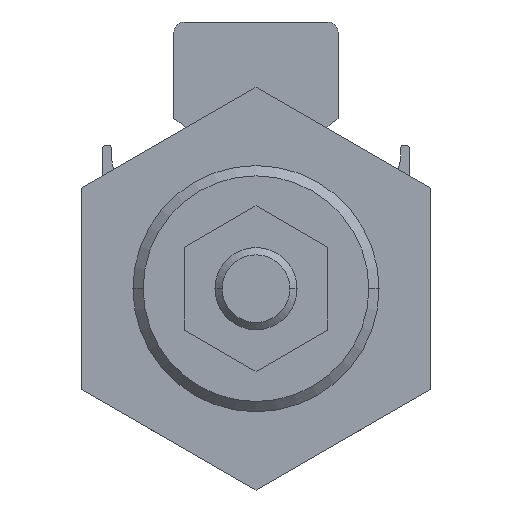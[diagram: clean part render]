
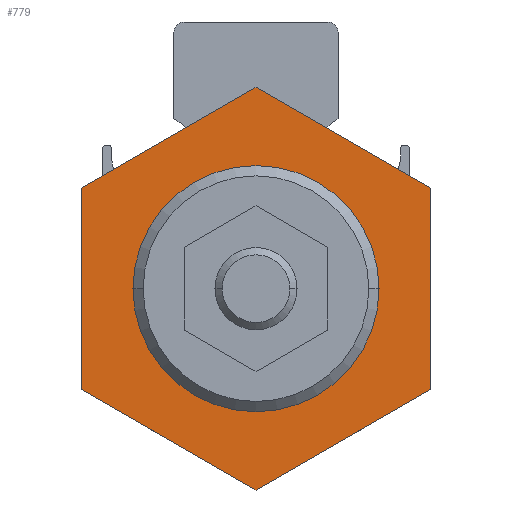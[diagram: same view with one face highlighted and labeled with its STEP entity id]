
A CAD part, front view. The second image highlights one B-rep face of the part: STEP entity #779.
In plain terms, the highlighted planar face has unit normal (0, -1, 0).
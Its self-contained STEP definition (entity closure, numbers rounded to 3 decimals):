
#213=CARTESIAN_POINT('',(-6.,-61.5,7.));
#214=VERTEX_POINT('',#213);
#223=CARTESIAN_POINT('',(6.,-61.5,7.));
#224=VERTEX_POINT('',#223);
#225=CARTESIAN_POINT('',(0.0,-61.5,7.));
#226=DIRECTION('',(0.0,-1.0,0.0));
#227=DIRECTION('',(-1.0,0.0,0.0));
#228=AXIS2_PLACEMENT_3D('',#225,#226,#227);
#229=CIRCLE('',#228,6.);
#230=EDGE_CURVE('',#214,#224,#229,.T.);
#714=CARTESIAN_POINT('',(0.,-61.5,7.));
#715=DIRECTION('',(0.0,1.0,0.0));
#716=DIRECTION('',(0.0,0.0,1.0));
#717=AXIS2_PLACEMENT_3D('',#714,#715,#716);
#718=PLANE('',#717);
#719=CARTESIAN_POINT('',(0.,-61.5,16.815));
#720=VERTEX_POINT('',#719);
#721=CARTESIAN_POINT('',(8.5,-61.5,11.907));
#722=VERTEX_POINT('',#721);
#723=CARTESIAN_POINT('',(0.,-61.5,16.815));
#724=DIRECTION('',(0.866,0.0,-0.5));
#725=VECTOR('',#724,9.815);
#726=LINE('',#723,#725);
#727=EDGE_CURVE('',#720,#722,#726,.T.);
#728=ORIENTED_EDGE('',*,*,#727,.F.);
#729=CARTESIAN_POINT('',(-8.5,-61.5,11.907));
#730=VERTEX_POINT('',#729);
#731=CARTESIAN_POINT('',(-8.5,-61.5,11.907));
#732=DIRECTION('',(0.866,0.0,0.5));
#733=VECTOR('',#732,9.815);
#734=LINE('',#731,#733);
#735=EDGE_CURVE('',#730,#720,#734,.T.);
#736=ORIENTED_EDGE('',*,*,#735,.F.);
#737=CARTESIAN_POINT('',(-8.5,-61.5,2.093));
#738=VERTEX_POINT('',#737);
#739=CARTESIAN_POINT('',(-8.5,-61.5,2.093));
#740=DIRECTION('',(0.0,0.0,1.0));
#741=VECTOR('',#740,9.815);
#742=LINE('',#739,#741);
#743=EDGE_CURVE('',#738,#730,#742,.T.);
#744=ORIENTED_EDGE('',*,*,#743,.F.);
#745=CARTESIAN_POINT('',(0.,-61.5,-2.815));
#746=VERTEX_POINT('',#745);
#747=CARTESIAN_POINT('',(0.,-61.5,-2.815));
#748=DIRECTION('',(-0.866,0.0,0.5));
#749=VECTOR('',#748,9.815);
#750=LINE('',#747,#749);
#751=EDGE_CURVE('',#746,#738,#750,.T.);
#752=ORIENTED_EDGE('',*,*,#751,.F.);
#753=CARTESIAN_POINT('',(8.5,-61.5,2.093));
#754=VERTEX_POINT('',#753);
#755=CARTESIAN_POINT('',(8.5,-61.5,2.093));
#756=DIRECTION('',(-0.866,0.0,-0.5));
#757=VECTOR('',#756,9.815);
#758=LINE('',#755,#757);
#759=EDGE_CURVE('',#754,#746,#758,.T.);
#760=ORIENTED_EDGE('',*,*,#759,.F.);
#761=CARTESIAN_POINT('',(8.5,-61.5,11.907));
#762=DIRECTION('',(0.0,0.0,-1.0));
#763=VECTOR('',#762,9.815);
#764=LINE('',#761,#763);
#765=EDGE_CURVE('',#722,#754,#764,.T.);
#766=ORIENTED_EDGE('',*,*,#765,.F.);
#767=EDGE_LOOP('',(#728,#736,#744,#752,#760,#766));
#768=FACE_OUTER_BOUND('',#767,.T.);
#769=CARTESIAN_POINT('',(0.0,-61.5,7.));
#770=DIRECTION('',(0.0,-1.0,0.0));
#771=DIRECTION('',(-1.0,0.0,0.0));
#772=AXIS2_PLACEMENT_3D('',#769,#770,#771);
#773=CIRCLE('',#772,6.);
#774=EDGE_CURVE('',#224,#214,#773,.T.);
#775=ORIENTED_EDGE('',*,*,#774,.F.);
#776=ORIENTED_EDGE('',*,*,#230,.F.);
#777=EDGE_LOOP('',(#775,#776));
#778=FACE_BOUND('',#777,.T.);
#779=ADVANCED_FACE('',(#768,#778),#718,.F.);
